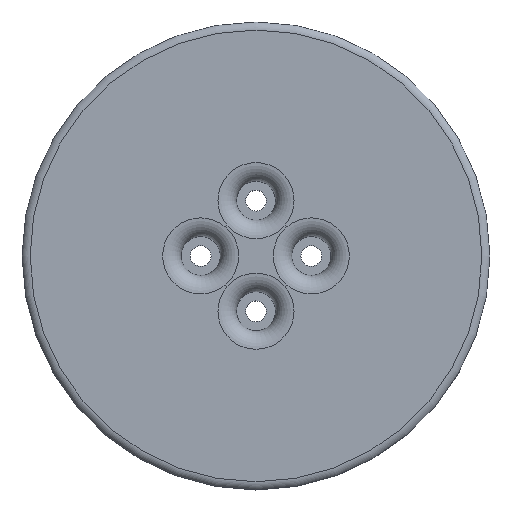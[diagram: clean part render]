
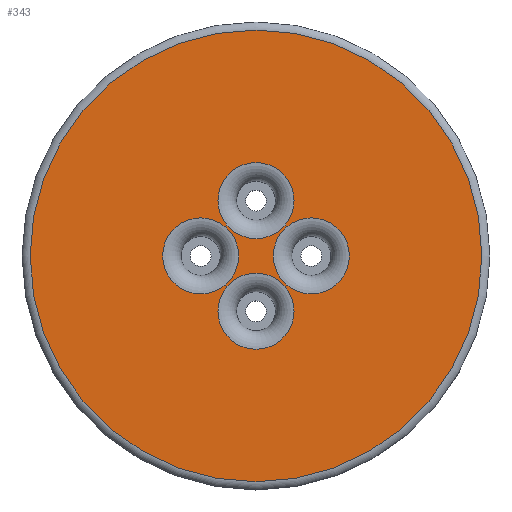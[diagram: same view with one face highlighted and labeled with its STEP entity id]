
A CAD part, top view. The second image highlights one B-rep face of the part: STEP entity #343.
In plain terms, the highlighted planar face has unit normal (0, 0, 1).
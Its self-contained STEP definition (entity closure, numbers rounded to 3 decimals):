
#48=FACE_BOUND('',#91,.T.);
#49=FACE_BOUND('',#92,.T.);
#50=FACE_BOUND('',#93,.T.);
#51=FACE_BOUND('',#94,.T.);
#60=PLANE('',#384);
#67=FACE_OUTER_BOUND('',#90,.T.);
#90=EDGE_LOOP('',(#245));
#91=EDGE_LOOP('',(#246));
#92=EDGE_LOOP('',(#247));
#93=EDGE_LOOP('',(#248));
#94=EDGE_LOOP('',(#249));
#124=CIRCLE('',#380,4.125);
#128=CIRCLE('',#385,24.5);
#129=CIRCLE('',#386,4.125);
#130=CIRCLE('',#387,4.125);
#131=CIRCLE('',#388,4.125);
#161=VERTEX_POINT('',#574);
#164=VERTEX_POINT('',#582);
#165=VERTEX_POINT('',#584);
#166=VERTEX_POINT('',#586);
#167=VERTEX_POINT('',#588);
#192=EDGE_CURVE('',#161,#161,#124,.T.);
#196=EDGE_CURVE('',#164,#164,#128,.T.);
#197=EDGE_CURVE('',#165,#165,#129,.T.);
#198=EDGE_CURVE('',#166,#166,#130,.T.);
#199=EDGE_CURVE('',#167,#167,#131,.T.);
#245=ORIENTED_EDGE('',*,*,#196,.F.);
#246=ORIENTED_EDGE('',*,*,#197,.F.);
#247=ORIENTED_EDGE('',*,*,#198,.F.);
#248=ORIENTED_EDGE('',*,*,#199,.F.);
#249=ORIENTED_EDGE('',*,*,#192,.F.);
#343=ADVANCED_FACE('',(#67,#48,#49,#50,#51),#60,.T.);
#380=AXIS2_PLACEMENT_3D('',#575,#443,#444);
#384=AXIS2_PLACEMENT_3D('',#581,#451,#452);
#385=AXIS2_PLACEMENT_3D('',#583,#453,#454);
#386=AXIS2_PLACEMENT_3D('',#585,#455,#456);
#387=AXIS2_PLACEMENT_3D('',#587,#457,#458);
#388=AXIS2_PLACEMENT_3D('',#589,#459,#460);
#443=DIRECTION('center_axis',(0.,0.,1.));
#444=DIRECTION('ref_axis',(1.,0.,0.));
#451=DIRECTION('center_axis',(0.,0.,1.));
#452=DIRECTION('ref_axis',(1.,0.,0.));
#453=DIRECTION('center_axis',(0.,0.,-1.));
#454=DIRECTION('ref_axis',(1.,0.,0.));
#455=DIRECTION('center_axis',(0.,0.,1.));
#456=DIRECTION('ref_axis',(1.,0.,0.));
#457=DIRECTION('center_axis',(0.,0.,1.));
#458=DIRECTION('ref_axis',(1.,0.,0.));
#459=DIRECTION('center_axis',(0.,0.,1.));
#460=DIRECTION('ref_axis',(1.,0.,0.));
#574=CARTESIAN_POINT('',(10.125,0.,12.));
#575=CARTESIAN_POINT('Origin',(6.,0.,12.));
#581=CARTESIAN_POINT('Origin',(0.,0.,12.));
#582=CARTESIAN_POINT('',(24.5,0.,12.));
#583=CARTESIAN_POINT('Origin',(0.,0.,12.));
#584=CARTESIAN_POINT('',(4.125,-6.,12.));
#585=CARTESIAN_POINT('Origin',(0.,-6.,12.));
#586=CARTESIAN_POINT('',(-1.875,0.,12.));
#587=CARTESIAN_POINT('Origin',(-6.,0.,12.));
#588=CARTESIAN_POINT('',(4.125,6.,12.));
#589=CARTESIAN_POINT('Origin',(0.,6.,12.));
